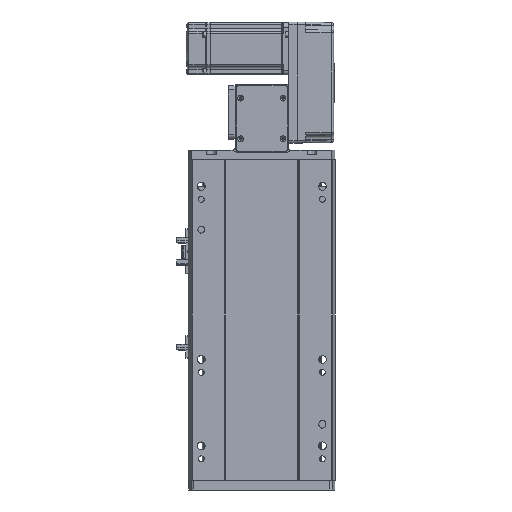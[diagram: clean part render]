
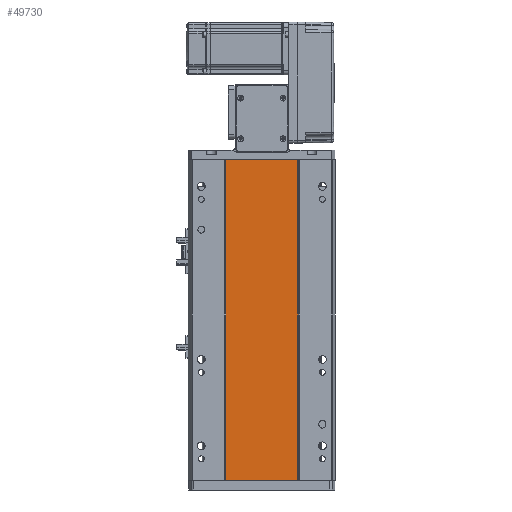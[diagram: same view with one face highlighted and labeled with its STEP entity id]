
A CAD part, front view. The second image highlights one B-rep face of the part: STEP entity #49730.
In plain terms, the highlighted planar face has unit normal (0, -1, 0).
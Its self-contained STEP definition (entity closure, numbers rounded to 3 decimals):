
#4539 = DIRECTION ( 'NONE',  ( 1., 0., 0. ) ) ;
#4757 = CARTESIAN_POINT ( 'NONE',  ( 0., 0.999, 0. ) ) ;
#6515 = VERTEX_POINT ( 'NONE', #24349 ) ;
#6814 = CARTESIAN_POINT ( 'NONE',  ( 41.793, 0.998, 371. ) ) ;
#7337 = LINE ( 'NONE', #4757, #43233 ) ;
#8368 = EDGE_CURVE ( 'NONE', #6515, #13317, #18423, .T. ) ;
#8607 = ORIENTED_EDGE ( 'NONE', *, *, #8368, .F. ) ;
#9910 = EDGE_CURVE ( 'NONE', #13317, #47760, #23988, .T. ) ;
#10025 = CARTESIAN_POINT ( 'NONE',  ( 0., 0.999, 371. ) ) ;
#13317 = VERTEX_POINT ( 'NONE', #46906 ) ;
#14227 = FACE_OUTER_BOUND ( 'NONE', #42096, .T. ) ;
#16010 = DIRECTION ( 'NONE',  ( 1., 0., 0. ) ) ;
#18423 = LINE ( 'NONE', #43234, #43294 ) ;
#23988 = LINE ( 'NONE', #6814, #34980 ) ;
#24349 = CARTESIAN_POINT ( 'NONE',  ( -41.791, 1., 371. ) ) ;
#24912 = VERTEX_POINT ( 'NONE', #30314 ) ;
#26232 = EDGE_CURVE ( 'NONE', #6515, #24912, #42603, .T. ) ;
#26390 = AXIS2_PLACEMENT_3D ( 'NONE', #10025, #28864, #52009 ) ;
#28864 = DIRECTION ( 'NONE',  ( 0., 1., 0. ) ) ;
#30314 = CARTESIAN_POINT ( 'NONE',  ( -41.791, 1., 0. ) ) ;
#34980 = VECTOR ( 'NONE', #44105, 1000. ) ;
#36761 = ORIENTED_EDGE ( 'NONE', *, *, #9910, .F. ) ;
#42034 = ORIENTED_EDGE ( 'NONE', *, *, #26232, .T. ) ;
#42096 = EDGE_LOOP ( 'NONE', ( #54531, #36761, #8607, #42034 ) ) ;
#42603 = LINE ( 'NONE', #48456, #58652 ) ;
#43233 = VECTOR ( 'NONE', #4539, 1000. ) ;
#43234 = CARTESIAN_POINT ( 'NONE',  ( 0., 0.999, 371. ) ) ;
#43294 = VECTOR ( 'NONE', #16010, 1000. ) ;
#44105 = DIRECTION ( 'NONE',  ( 0., 0., -1. ) ) ;
#46906 = CARTESIAN_POINT ( 'NONE',  ( 41.793, 0.998, 371. ) ) ;
#47760 = VERTEX_POINT ( 'NONE', #48758 ) ;
#48076 = PLANE ( 'NONE',  #26390 ) ;
#48456 = CARTESIAN_POINT ( 'NONE',  ( -41.791, 1., 371. ) ) ;
#48758 = CARTESIAN_POINT ( 'NONE',  ( 41.793, 0.998, 0. ) ) ;
#48868 = DIRECTION ( 'NONE',  ( 0., 0., -1. ) ) ;
#49730 = ADVANCED_FACE ( 'NONE', ( #14227 ), #48076, .F. ) ;
#52009 = DIRECTION ( 'NONE',  ( -1., 0., 0. ) ) ;
#54531 = ORIENTED_EDGE ( 'NONE', *, *, #55990, .T. ) ;
#55990 = EDGE_CURVE ( 'NONE', #24912, #47760, #7337, .T. ) ;
#58652 = VECTOR ( 'NONE', #48868, 1000. ) ;
